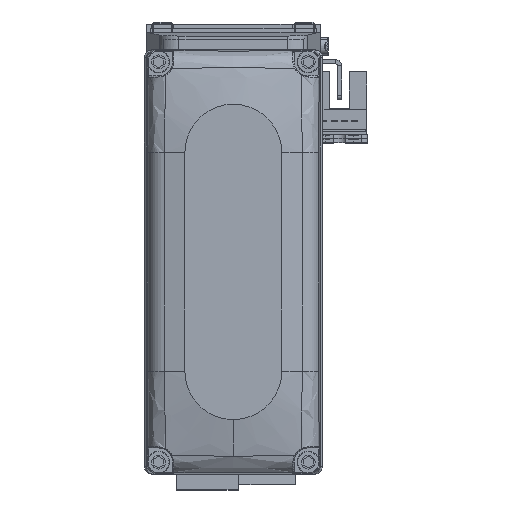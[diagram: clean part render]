
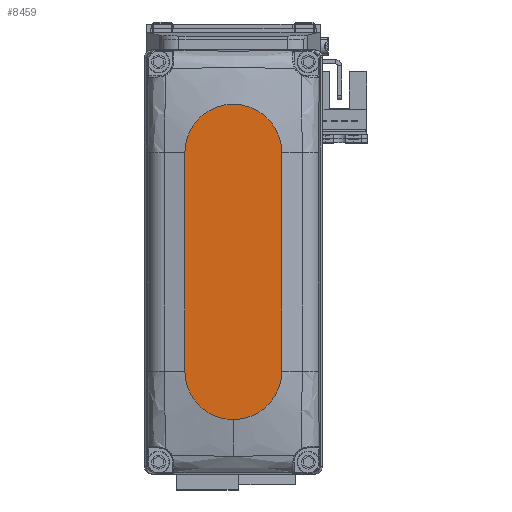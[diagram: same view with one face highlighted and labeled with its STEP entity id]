
A CAD part, top view. The second image highlights one B-rep face of the part: STEP entity #8459.
In plain terms, the highlighted planar face has unit normal (0, 0, 1).
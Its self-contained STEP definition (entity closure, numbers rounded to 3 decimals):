
#461 = ORIENTED_EDGE ( 'NONE', *, *, #16351, .T. ) ;
#881 = DIRECTION ( 'NONE',  ( 1., 0., 0. ) ) ;
#1150 = DIRECTION ( 'NONE',  ( 1., 0., 0. ) ) ;
#1874 = VECTOR ( 'NONE', #4531, 1000. ) ;
#2139 = DIRECTION ( 'NONE',  ( 1., 0., 0. ) ) ;
#2662 = VERTEX_POINT ( 'NONE', #34720 ) ;
#3252 = EDGE_CURVE ( 'NONE', #26315, #2662, #19900, .T. ) ;
#3917 = PLANE ( 'NONE',  #28227 ) ;
#3974 = DIRECTION ( 'NONE',  ( 1., 0., 0. ) ) ;
#4531 = DIRECTION ( 'NONE',  ( -1., 0., 0. ) ) ;
#7565 = AXIS2_PLACEMENT_3D ( 'NONE', #25355, #37694, #9968 ) ;
#7821 = VERTEX_POINT ( 'NONE', #26864 ) ;
#8459 = ADVANCED_FACE ( 'NONE', ( #31618 ), #3917, .T. ) ;
#8810 = ORIENTED_EDGE ( 'NONE', *, *, #27255, .T. ) ;
#9169 = ORIENTED_EDGE ( 'NONE', *, *, #23858, .T. ) ;
#9949 = VERTEX_POINT ( 'NONE', #17784 ) ;
#9968 = DIRECTION ( 'NONE',  ( 1., 0., 0. ) ) ;
#13985 = ORIENTED_EDGE ( 'NONE', *, *, #33207, .T. ) ;
#16040 = CIRCLE ( 'NONE', #38662, 12. ) ;
#16248 = CARTESIAN_POINT ( 'NONE',  ( 0., 0., 25. ) ) ;
#16351 = EDGE_CURVE ( 'NONE', #16884, #9949, #17501, .T. ) ;
#16508 = CARTESIAN_POINT ( 'NONE',  ( 27., 0., 25. ) ) ;
#16884 = VERTEX_POINT ( 'NONE', #27128 ) ;
#17501 = LINE ( 'NONE', #29837, #28696 ) ;
#17784 = CARTESIAN_POINT ( 'NONE',  ( 27., -12., 25. ) ) ;
#19354 = CARTESIAN_POINT ( 'NONE',  ( -27., 0., 25. ) ) ;
#19568 = ORIENTED_EDGE ( 'NONE', *, *, #3252, .T. ) ;
#19900 = LINE ( 'NONE', #32239, #1874 ) ;
#21945 = AXIS2_PLACEMENT_3D ( 'NONE', #16508, #28844, #1150 ) ;
#22480 = CARTESIAN_POINT ( 'NONE',  ( 27., 12., 25. ) ) ;
#23858 = EDGE_CURVE ( 'NONE', #2662, #16884, #16040, .T. ) ;
#24628 = EDGE_LOOP ( 'NONE', ( #19568, #9169, #461, #8810, #13985 ) ) ;
#24986 = CIRCLE ( 'NONE', #7565, 12. ) ;
#25355 = CARTESIAN_POINT ( 'NONE',  ( 27., 0., 25. ) ) ;
#26315 = VERTEX_POINT ( 'NONE', #22480 ) ;
#26864 = CARTESIAN_POINT ( 'NONE',  ( 39., 0., 25. ) ) ;
#27128 = CARTESIAN_POINT ( 'NONE',  ( -27., -12., 25. ) ) ;
#27255 = EDGE_CURVE ( 'NONE', #9949, #7821, #39386, .T. ) ;
#28227 = AXIS2_PLACEMENT_3D ( 'NONE', #16248, #28576, #881 ) ;
#28576 = DIRECTION ( 'NONE',  ( 0., 0., 1. ) ) ;
#28696 = VECTOR ( 'NONE', #2139, 1000. ) ;
#28844 = DIRECTION ( 'NONE',  ( 0., 0., 1. ) ) ;
#29837 = CARTESIAN_POINT ( 'NONE',  ( -27., -12., 25. ) ) ;
#31618 = FACE_OUTER_BOUND ( 'NONE', #24628, .T. ) ;
#31679 = DIRECTION ( 'NONE',  ( 0., 0., 1. ) ) ;
#32239 = CARTESIAN_POINT ( 'NONE',  ( -27., 12., 25. ) ) ;
#33207 = EDGE_CURVE ( 'NONE', #7821, #26315, #24986, .T. ) ;
#34720 = CARTESIAN_POINT ( 'NONE',  ( -27., 12., 25. ) ) ;
#37694 = DIRECTION ( 'NONE',  ( 0., 0., 1. ) ) ;
#38662 = AXIS2_PLACEMENT_3D ( 'NONE', #19354, #31679, #3974 ) ;
#39386 = CIRCLE ( 'NONE', #21945, 12. ) ;
